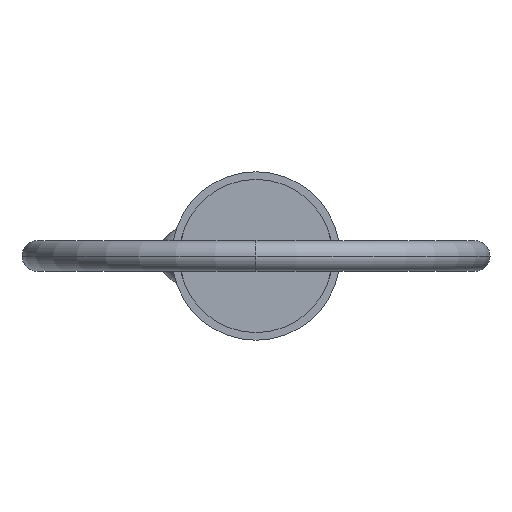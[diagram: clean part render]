
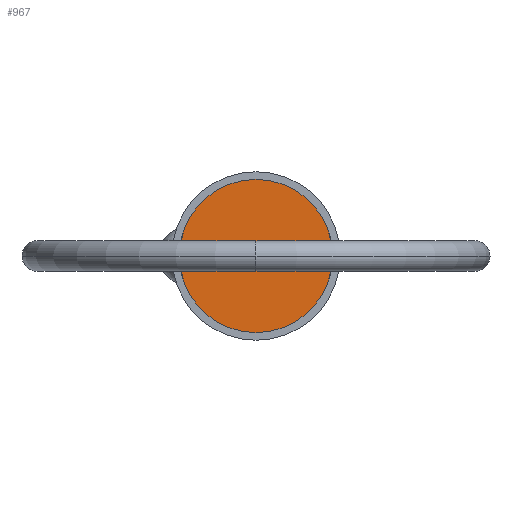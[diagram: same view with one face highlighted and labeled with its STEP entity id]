
A CAD part, left-side view. The second image highlights one B-rep face of the part: STEP entity #967.
In plain terms, the highlighted planar face has unit normal (-1, 0, 0).
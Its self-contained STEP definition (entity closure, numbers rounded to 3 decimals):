
#4 = CIRCLE ( 'NONE', #651, 11.115 ) ;
#41 = EDGE_CURVE ( 'NONE', #937, #930, #485, .T. ) ;
#44 = ORIENTED_EDGE ( 'NONE', *, *, #191, .F. ) ;
#54 = CARTESIAN_POINT ( 'NONE',  ( 0., 0., 0. ) ) ;
#58 = AXIS2_PLACEMENT_3D ( 'NONE', #171, #178, #507 ) ;
#91 = CARTESIAN_POINT ( 'NONE',  ( 0., 0., 11.115 ) ) ;
#142 = DIRECTION ( 'NONE',  ( 0., 0., -1. ) ) ;
#171 = CARTESIAN_POINT ( 'NONE',  ( 0., 0., 0. ) ) ;
#178 = DIRECTION ( 'NONE',  ( -1., 0., 0. ) ) ;
#191 = EDGE_CURVE ( 'NONE', #930, #937, #4, .T. ) ;
#249 = EDGE_LOOP ( 'NONE', ( #926, #44 ) ) ;
#256 = PLANE ( 'NONE',  #58 ) ;
#324 = CARTESIAN_POINT ( 'NONE',  ( 0., 0., -11.115 ) ) ;
#386 = DIRECTION ( 'NONE',  ( 1., 0., 0. ) ) ;
#485 = CIRCLE ( 'NONE', #625, 11.115 ) ;
#507 = DIRECTION ( 'NONE',  ( 0., 0., 1. ) ) ;
#561 = DIRECTION ( 'NONE',  ( 1., 0., 0. ) ) ;
#625 = AXIS2_PLACEMENT_3D ( 'NONE', #54, #386, #1061 ) ;
#651 = AXIS2_PLACEMENT_3D ( 'NONE', #658, #561, #142 ) ;
#658 = CARTESIAN_POINT ( 'NONE',  ( 0., 0., 0. ) ) ;
#668 = FACE_OUTER_BOUND ( 'NONE', #249, .T. ) ;
#926 = ORIENTED_EDGE ( 'NONE', *, *, #41, .F. ) ;
#930 = VERTEX_POINT ( 'NONE', #91 ) ;
#937 = VERTEX_POINT ( 'NONE', #324 ) ;
#967 = ADVANCED_FACE ( 'NONE', ( #668 ), #256, .T. ) ;
#1061 = DIRECTION ( 'NONE',  ( 0., 0., -1. ) ) ;
